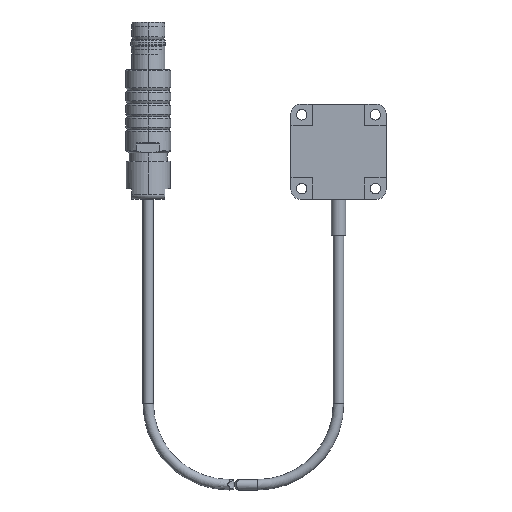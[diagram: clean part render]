
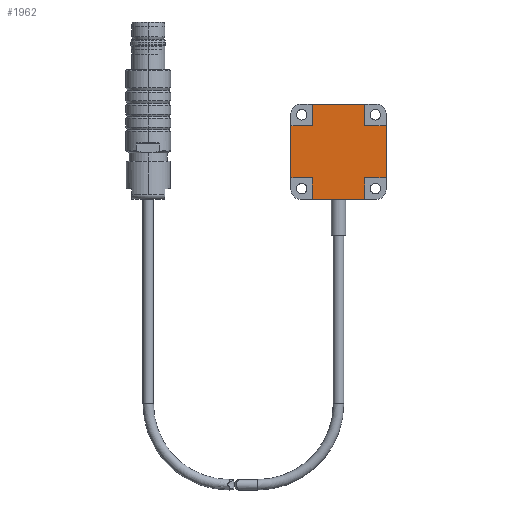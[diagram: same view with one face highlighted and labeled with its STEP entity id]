
A CAD part, front view. The second image highlights one B-rep face of the part: STEP entity #1962.
In plain terms, the highlighted planar face has unit normal (0, -1, 0).
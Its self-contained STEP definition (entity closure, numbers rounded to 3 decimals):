
#660=DIRECTION('',(0.,0.,1.));
#661=VECTOR('',#660,11.);
#662=CARTESIAN_POINT('',(-10.,0.1,-5.5));
#663=LINE('',#662,#661);
#695=DIRECTION('',(0.,0.,1.));
#696=VECTOR('',#695,4.5);
#697=CARTESIAN_POINT('',(5.5,0.1,5.5));
#698=LINE('',#697,#696);
#702=DIRECTION('',(-1.,0.,0.));
#703=VECTOR('',#702,4.5);
#704=CARTESIAN_POINT('',(10.,0.1,5.5));
#705=LINE('',#704,#703);
#709=DIRECTION('',(1.,0.,0.));
#710=VECTOR('',#709,4.5);
#711=CARTESIAN_POINT('',(5.5,0.1,-5.5));
#712=LINE('',#711,#710);
#716=DIRECTION('',(0.,0.,1.));
#717=VECTOR('',#716,4.5);
#718=CARTESIAN_POINT('',(5.5,0.1,-10.));
#719=LINE('',#718,#717);
#723=DIRECTION('',(0.,0.,-1.));
#724=VECTOR('',#723,4.5);
#725=CARTESIAN_POINT('',(-5.5,0.1,-5.5));
#726=LINE('',#725,#724);
#730=DIRECTION('',(1.,0.,0.));
#731=VECTOR('',#730,4.5);
#732=CARTESIAN_POINT('',(-10.,0.1,-5.5));
#733=LINE('',#732,#731);
#737=DIRECTION('',(-1.,0.,0.));
#738=VECTOR('',#737,4.5);
#739=CARTESIAN_POINT('',(-5.5,0.1,5.5));
#740=LINE('',#739,#738);
#744=DIRECTION('',(0.,0.,-1.));
#745=VECTOR('',#744,4.5);
#746=CARTESIAN_POINT('',(-5.5,0.1,10.));
#747=LINE('',#746,#745);
#751=DIRECTION('',(1.,0.,0.));
#752=VECTOR('',#751,11.);
#753=CARTESIAN_POINT('',(-5.5,0.1,10.));
#754=LINE('',#753,#752);
#793=DIRECTION('',(0.,0.,-1.));
#794=VECTOR('',#793,11.);
#795=CARTESIAN_POINT('',(10.,0.1,5.5));
#796=LINE('',#795,#794);
#842=DIRECTION('',(-1.,0.,0.));
#843=VECTOR('',#842,11.);
#844=CARTESIAN_POINT('',(5.5,0.1,-10.));
#845=LINE('',#844,#843);
#1359=CARTESIAN_POINT('',(-5.5,0.1,10.));
#1360=CARTESIAN_POINT('',(5.5,0.1,10.));
#1361=VERTEX_POINT('',#1359);
#1362=VERTEX_POINT('',#1360);
#1363=CARTESIAN_POINT('',(10.,0.1,5.5));
#1364=CARTESIAN_POINT('',(10.,0.1,-5.5));
#1365=VERTEX_POINT('',#1363);
#1366=VERTEX_POINT('',#1364);
#1367=CARTESIAN_POINT('',(5.5,0.1,-10.));
#1368=CARTESIAN_POINT('',(-5.5,0.1,-10.));
#1369=VERTEX_POINT('',#1367);
#1370=VERTEX_POINT('',#1368);
#1371=CARTESIAN_POINT('',(-10.,0.1,-5.5));
#1372=CARTESIAN_POINT('',(-10.,0.1,5.5));
#1373=VERTEX_POINT('',#1371);
#1374=VERTEX_POINT('',#1372);
#1375=CARTESIAN_POINT('',(-5.5,0.1,-5.5));
#1376=VERTEX_POINT('',#1375);
#1377=CARTESIAN_POINT('',(5.5,0.1,-5.5));
#1378=VERTEX_POINT('',#1377);
#1379=CARTESIAN_POINT('',(5.5,0.1,5.5));
#1380=VERTEX_POINT('',#1379);
#1381=CARTESIAN_POINT('',(-5.5,0.1,5.5));
#1382=VERTEX_POINT('',#1381);
#1933=CARTESIAN_POINT('',(0.,0.1,0.));
#1934=DIRECTION('',(0.,-1.,0.));
#1935=DIRECTION('',(0.,0.,1.));
#1936=AXIS2_PLACEMENT_3D('',#1933,#1934,#1935);
#1937=PLANE('',#1936);
#1939=ORIENTED_EDGE('',*,*,#1938,.T.);
#1941=ORIENTED_EDGE('',*,*,#1940,.F.);
#1943=ORIENTED_EDGE('',*,*,#1942,.F.);
#1945=ORIENTED_EDGE('',*,*,#1944,.T.);
#1947=ORIENTED_EDGE('',*,*,#1946,.F.);
#1949=ORIENTED_EDGE('',*,*,#1948,.F.);
#1951=ORIENTED_EDGE('',*,*,#1950,.T.);
#1953=ORIENTED_EDGE('',*,*,#1952,.F.);
#1954=ORIENTED_EDGE('',*,*,#1906,.F.);
#1955=ORIENTED_EDGE('',*,*,#1918,.T.);
#1957=ORIENTED_EDGE('',*,*,#1956,.F.);
#1959=ORIENTED_EDGE('',*,*,#1958,.F.);
#1960=EDGE_LOOP('',(#1939,#1941,#1943,#1945,#1947,#1949,#1951,#1953,#1954,#1955,
#1957,#1959));
#1961=FACE_OUTER_BOUND('',#1960,.F.);
#1906=EDGE_CURVE('',#1373,#1376,#733,.T.);
#1918=EDGE_CURVE('',#1373,#1374,#663,.T.);
#1938=EDGE_CURVE('',#1361,#1362,#754,.T.);
#1940=EDGE_CURVE('',#1380,#1362,#698,.T.);
#1942=EDGE_CURVE('',#1365,#1380,#705,.T.);
#1944=EDGE_CURVE('',#1365,#1366,#796,.T.);
#1946=EDGE_CURVE('',#1378,#1366,#712,.T.);
#1948=EDGE_CURVE('',#1369,#1378,#719,.T.);
#1950=EDGE_CURVE('',#1369,#1370,#845,.T.);
#1952=EDGE_CURVE('',#1376,#1370,#726,.T.);
#1956=EDGE_CURVE('',#1382,#1374,#740,.T.);
#1958=EDGE_CURVE('',#1361,#1382,#747,.T.);
#1962=ADVANCED_FACE('',(#1961),#1937,.T.);
